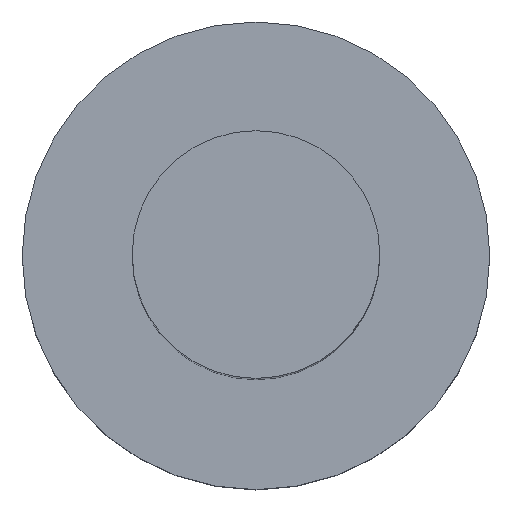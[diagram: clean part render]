
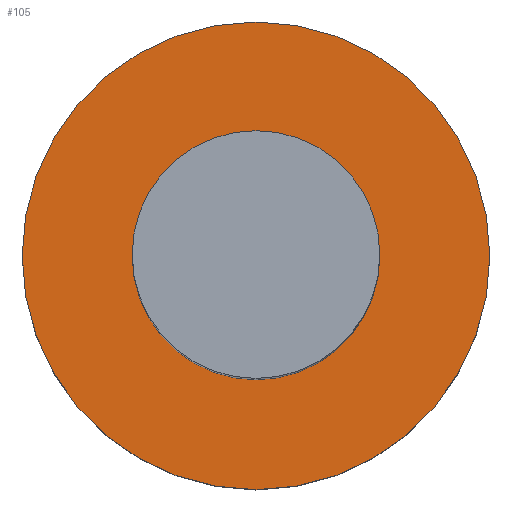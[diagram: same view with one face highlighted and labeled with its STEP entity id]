
A CAD part, top view. The second image highlights one B-rep face of the part: STEP entity #105.
In plain terms, the highlighted planar face has unit normal (0, 0, 1).
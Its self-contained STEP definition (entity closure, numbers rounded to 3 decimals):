
#21 = EDGE_CURVE('',#22,#22,#24,.T.);
#22 = VERTEX_POINT('',#23);
#23 = CARTESIAN_POINT('',(37.2,23.5,-5.7));
#24 = SURFACE_CURVE('',#25,(#30,#42),.PCURVE_S1.);
#25 = CIRCLE('',#26,1.85);
#26 = AXIS2_PLACEMENT_3D('',#27,#28,#29);
#27 = CARTESIAN_POINT('',(35.35,23.5,-5.7));
#28 = DIRECTION('',(0.,0.,1.));
#29 = DIRECTION('',(1.,0.,-0.));
#30 = PCURVE('',#31,#36);
#31 = CYLINDRICAL_SURFACE('',#32,1.85);
#32 = AXIS2_PLACEMENT_3D('',#33,#34,#35);
#33 = CARTESIAN_POINT('',(35.35,23.5,-7.1));
#34 = DIRECTION('',(0.,0.,1.));
#35 = DIRECTION('',(1.,0.,-0.));
#36 = DEFINITIONAL_REPRESENTATION('',(#37),#41);
#37 = LINE('',#38,#39);
#38 = CARTESIAN_POINT('',(0.,1.4));
#39 = VECTOR('',#40,1.);
#40 = DIRECTION('',(1.,0.));
#41 = ( GEOMETRIC_REPRESENTATION_CONTEXT(2) 
PARAMETRIC_REPRESENTATION_CONTEXT() REPRESENTATION_CONTEXT('2D SPACE',''
  ) );
#42 = PCURVE('',#43,#48);
#43 = PLANE('',#44);
#44 = AXIS2_PLACEMENT_3D('',#45,#46,#47);
#45 = CARTESIAN_POINT('',(35.35,23.5,-5.7));
#46 = DIRECTION('',(0.,0.,1.));
#47 = DIRECTION('',(1.,0.,-0.));
#48 = DEFINITIONAL_REPRESENTATION('',(#49),#53);
#49 = CIRCLE('',#50,1.85);
#50 = AXIS2_PLACEMENT_2D('',#51,#52);
#51 = CARTESIAN_POINT('',(0.,0.));
#52 = DIRECTION('',(1.,0.));
#53 = ( GEOMETRIC_REPRESENTATION_CONTEXT(2) 
PARAMETRIC_REPRESENTATION_CONTEXT() REPRESENTATION_CONTEXT('2D SPACE',''
  ) );
#105 = ADVANCED_FACE('',(#106,#109),#43,.T.);
#106 = FACE_BOUND('',#107,.T.);
#107 = EDGE_LOOP('',(#108));
#108 = ORIENTED_EDGE('',*,*,#21,.T.);
#109 = FACE_BOUND('',#110,.T.);
#110 = EDGE_LOOP('',(#111));
#111 = ORIENTED_EDGE('',*,*,#112,.F.);
#112 = EDGE_CURVE('',#113,#113,#115,.T.);
#113 = VERTEX_POINT('',#114);
#114 = CARTESIAN_POINT('',(36.33,23.5,-5.7));
#115 = SURFACE_CURVE('',#116,(#121,#128),.PCURVE_S1.);
#116 = CIRCLE('',#117,0.98);
#117 = AXIS2_PLACEMENT_3D('',#118,#119,#120);
#118 = CARTESIAN_POINT('',(35.35,23.5,-5.7));
#119 = DIRECTION('',(0.,0.,1.));
#120 = DIRECTION('',(1.,0.,-0.));
#121 = PCURVE('',#43,#122);
#122 = DEFINITIONAL_REPRESENTATION('',(#123),#127);
#123 = CIRCLE('',#124,0.98);
#124 = AXIS2_PLACEMENT_2D('',#125,#126);
#125 = CARTESIAN_POINT('',(0.,0.));
#126 = DIRECTION('',(1.,0.));
#127 = ( GEOMETRIC_REPRESENTATION_CONTEXT(2) 
PARAMETRIC_REPRESENTATION_CONTEXT() REPRESENTATION_CONTEXT('2D SPACE',''
  ) );
#128 = PCURVE('',#129,#134);
#129 = CYLINDRICAL_SURFACE('',#130,0.98);
#130 = AXIS2_PLACEMENT_3D('',#131,#132,#133);
#131 = CARTESIAN_POINT('',(35.35,23.5,-5.7));
#132 = DIRECTION('',(0.,0.,1.));
#133 = DIRECTION('',(1.,0.,-0.));
#134 = DEFINITIONAL_REPRESENTATION('',(#135),#139);
#135 = LINE('',#136,#137);
#136 = CARTESIAN_POINT('',(0.,0.));
#137 = VECTOR('',#138,1.);
#138 = DIRECTION('',(1.,0.));
#139 = ( GEOMETRIC_REPRESENTATION_CONTEXT(2) 
PARAMETRIC_REPRESENTATION_CONTEXT() REPRESENTATION_CONTEXT('2D SPACE',''
  ) );
